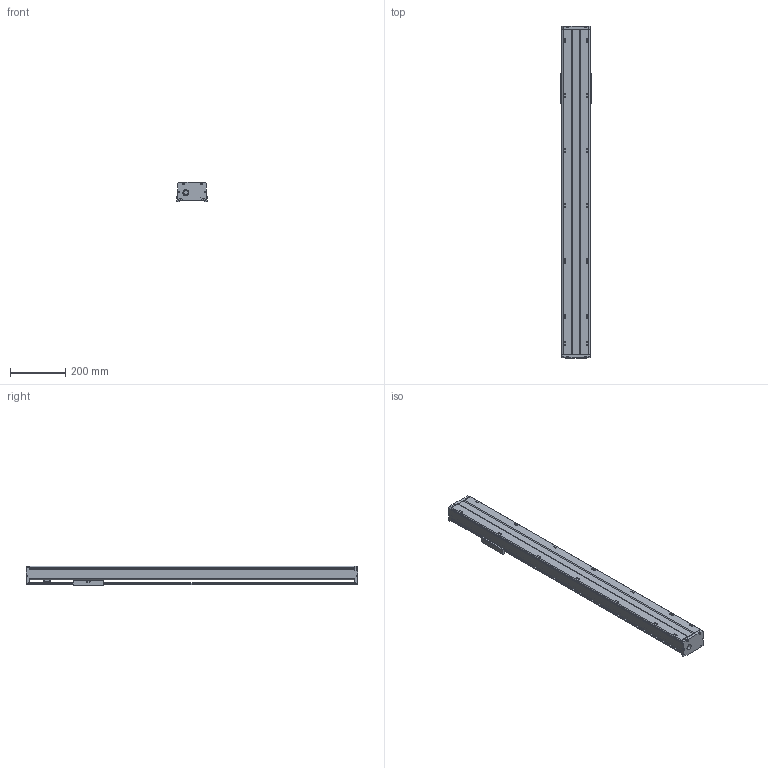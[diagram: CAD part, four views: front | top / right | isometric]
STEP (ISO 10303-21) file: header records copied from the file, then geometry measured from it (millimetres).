
FILE_DESCRIPTION(/* description */ (''),/* implementation_level */ '2;1');
FILE_NAME(/* name */ 'TKA100-950A1F0_asm1.stp',/* time_stamp */ '2017-02-20T16:27:20+08:00',/* author */ (''),/* organization */ (''),/* preprocessor_version */ 'ST-DEVELOPER v15',/* originating_system */ 'SIEMENS PLM Software NX 8.5',/* authorisation */ '');
FILE_SCHEMA (('AUTOMOTIVE_DESIGN { 1 0 10303 214 3 1 1 1 }'));
Length unit declared in the file: millimetre
Products named in the file (3): 200-02; 200-01; TKA100-950A1F0_asm1_stp
Assembly tree (2 placements, depth 2):
  TKA100-950A1F0_asm1_stp
    200-01
    200-02
Bounding box: 110 x 1204 x 71 mm (x, y, z)
Volume: 2440797.5 mm3; surface area: 813705.2 mm2
Topology: 2 solids, 10 shells, 709 faces, 1881 edges, 1230 vertices
Faces by surface type: cylinder 279, plane 263, cone 114, torus 27, bspline 26
Full cylindrical faces by diameter (mm): 2.5 x6, 2.6 x8, 3.3 x8, 3.4 x8, 3.8 x4, 4.2 x23, 4.3 x4, 4.5 x4, 5 x1, 5.5 x22, 6.6 x4, 8 x5, 9 x4, 10 x14, 11 x4, 12 x6, 12.05 x2, 15.3 x1, 15.4 x1, 16 x1, 17 x2, 18 x1, 22 x1, 24 x1, 28 x5, 30 x1
Entity records: 26348 total; most frequent: CARTESIAN_POINT 9902, DIRECTION 3363, ORIENTED_EDGE 3108, EDGE_CURVE 1554, AXIS2_PLACEMENT_3D 1355, VERTEX_POINT 1151, EDGE_LOOP 1046, ADVANCED_FACE 709
